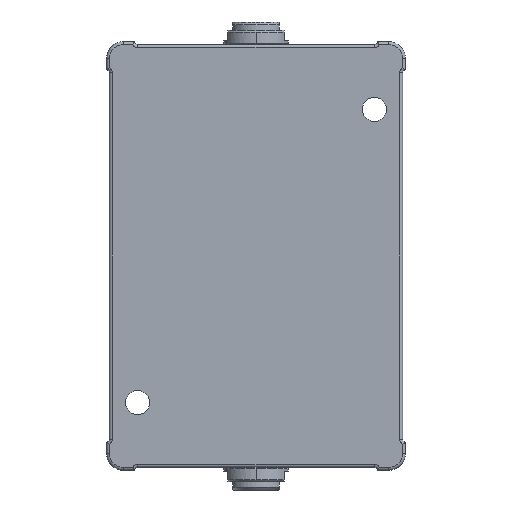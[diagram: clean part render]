
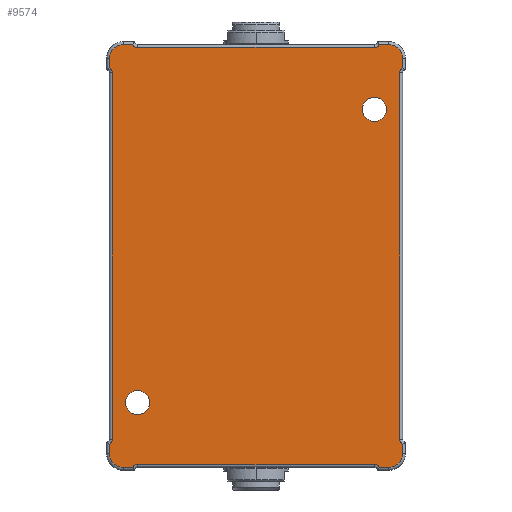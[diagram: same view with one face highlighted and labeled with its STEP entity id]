
A CAD part, front view. The second image highlights one B-rep face of the part: STEP entity #9574.
In plain terms, the highlighted planar face has unit normal (0, -1, 0).
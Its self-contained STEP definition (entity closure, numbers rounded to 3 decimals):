
#896=CARTESIAN_POINT('',(21.,-3.,26.));
#897=DIRECTION('',(0.,1.,0.));
#898=DIRECTION('',(1.,0.,0.));
#899=AXIS2_PLACEMENT_3D('',#896,#897,#898);
#904=CARTESIAN_POINT('',(21.,-3.,26.));
#905=DIRECTION('',(0.,1.,0.));
#906=DIRECTION('',(-1.,0.,0.));
#907=AXIS2_PLACEMENT_3D('',#904,#905,#906);
#912=CARTESIAN_POINT('',(-21.,-3.,-26.));
#913=DIRECTION('',(0.,1.,0.));
#914=DIRECTION('',(1.,0.,0.));
#915=AXIS2_PLACEMENT_3D('',#912,#913,#914);
#920=CARTESIAN_POINT('',(-21.,-3.,-26.));
#921=DIRECTION('',(0.,1.,0.));
#922=DIRECTION('',(-1.,0.,0.));
#923=AXIS2_PLACEMENT_3D('',#920,#921,#922);
#928=CARTESIAN_POINT('',(23.5,-3.,-35.));
#929=DIRECTION('',(0.,1.,0.));
#930=DIRECTION('',(1.,0.,0.));
#931=AXIS2_PLACEMENT_3D('',#928,#929,#930);
#936=DIRECTION('',(1.,0.,0.));
#937=VECTOR('',#936,1.634);
#938=CARTESIAN_POINT('',(21.866,-3.,-37.5));
#939=LINE('',#938,#937);
#943=CARTESIAN_POINT('',(21.,-3.,-38.));
#944=DIRECTION('',(0.,-1.,0.));
#945=DIRECTION('',(0.866,0.,0.5));
#946=AXIS2_PLACEMENT_3D('',#943,#944,#945);
#951=DIRECTION('',(-1.,0.,0.));
#952=VECTOR('',#951,42.);
#953=CARTESIAN_POINT('',(21.,-3.,-37.));
#954=LINE('',#953,#952);
#958=CARTESIAN_POINT('',(-21.,-3.,-38.));
#959=DIRECTION('',(0.,-1.,0.));
#960=DIRECTION('',(0.,0.,1.));
#961=AXIS2_PLACEMENT_3D('',#958,#959,#960);
#966=DIRECTION('',(1.,0.,0.));
#967=VECTOR('',#966,1.634);
#968=CARTESIAN_POINT('',(-23.5,-3.,-37.5));
#969=LINE('',#968,#967);
#973=CARTESIAN_POINT('',(-23.5,-3.,-35.));
#974=DIRECTION('',(0.,1.,0.));
#975=DIRECTION('',(0.,0.,-1.));
#976=AXIS2_PLACEMENT_3D('',#973,#974,#975);
#981=DIRECTION('',(0.,0.,-1.));
#982=VECTOR('',#981,1.634);
#983=CARTESIAN_POINT('',(-26.,-3.,-33.366));
#984=LINE('',#983,#982);
#988=CARTESIAN_POINT('',(-26.5,-3.,-32.5));
#989=DIRECTION('',(0.,-1.,0.));
#990=DIRECTION('',(0.5,0.,-0.866));
#991=AXIS2_PLACEMENT_3D('',#988,#989,#990);
#996=DIRECTION('',(0.,0.,1.));
#997=VECTOR('',#996,65.);
#998=CARTESIAN_POINT('',(-25.5,-3.,-32.5));
#999=LINE('',#998,#997);
#1003=CARTESIAN_POINT('',(-26.5,-3.,32.5));
#1004=DIRECTION('',(0.,-1.,0.));
#1005=DIRECTION('',(1.,0.,0.));
#1006=AXIS2_PLACEMENT_3D('',#1003,#1004,#1005);
#1011=DIRECTION('',(0.,0.,-1.));
#1012=VECTOR('',#1011,1.634);
#1013=CARTESIAN_POINT('',(-26.,-3.,35.));
#1014=LINE('',#1013,#1012);
#1018=CARTESIAN_POINT('',(-23.5,-3.,35.));
#1019=DIRECTION('',(0.,1.,0.));
#1020=DIRECTION('',(-1.,0.,0.));
#1021=AXIS2_PLACEMENT_3D('',#1018,#1019,#1020);
#1026=DIRECTION('',(-1.,0.,0.));
#1027=VECTOR('',#1026,1.634);
#1028=CARTESIAN_POINT('',(-21.866,-3.,37.5));
#1029=LINE('',#1028,#1027);
#1033=CARTESIAN_POINT('',(-21.,-3.,38.));
#1034=DIRECTION('',(0.,-1.,0.));
#1035=DIRECTION('',(-0.866,0.,-0.5));
#1036=AXIS2_PLACEMENT_3D('',#1033,#1034,#1035);
#1041=DIRECTION('',(1.,0.,0.));
#1042=VECTOR('',#1041,42.);
#1043=CARTESIAN_POINT('',(-21.,-3.,37.));
#1044=LINE('',#1043,#1042);
#1048=CARTESIAN_POINT('',(21.,-3.,38.));
#1049=DIRECTION('',(0.,-1.,0.));
#1050=DIRECTION('',(0.,0.,-1.));
#1051=AXIS2_PLACEMENT_3D('',#1048,#1049,#1050);
#1056=DIRECTION('',(-1.,0.,0.));
#1057=VECTOR('',#1056,1.634);
#1058=CARTESIAN_POINT('',(23.5,-3.,37.5));
#1059=LINE('',#1058,#1057);
#1063=CARTESIAN_POINT('',(23.5,-3.,35.));
#1064=DIRECTION('',(0.,1.,0.));
#1065=DIRECTION('',(0.,0.,1.));
#1066=AXIS2_PLACEMENT_3D('',#1063,#1064,#1065);
#1071=DIRECTION('',(0.,0.,1.));
#1072=VECTOR('',#1071,1.634);
#1073=CARTESIAN_POINT('',(26.,-3.,33.366));
#1074=LINE('',#1073,#1072);
#1078=CARTESIAN_POINT('',(26.5,-3.,32.5));
#1079=DIRECTION('',(0.,-1.,0.));
#1080=DIRECTION('',(-0.5,0.,0.866));
#1081=AXIS2_PLACEMENT_3D('',#1078,#1079,#1080);
#1086=DIRECTION('',(0.,0.,-1.));
#1087=VECTOR('',#1086,65.);
#1088=CARTESIAN_POINT('',(25.5,-3.,32.5));
#1089=LINE('',#1088,#1087);
#1093=CARTESIAN_POINT('',(26.5,-3.,-32.5));
#1094=DIRECTION('',(0.,-1.,0.));
#1095=DIRECTION('',(-1.,0.,0.));
#1096=AXIS2_PLACEMENT_3D('',#1093,#1094,#1095);
#1101=DIRECTION('',(0.,0.,1.));
#1102=VECTOR('',#1101,1.634);
#1103=CARTESIAN_POINT('',(26.,-3.,-35.));
#1104=LINE('',#1103,#1102);
#1760=CARTESIAN_POINT('',(-21.866,-3.,-37.5));
#1849=CARTESIAN_POINT('',(-26.,-3.,-33.366));
#2034=CARTESIAN_POINT('',(-21.866,-3.,37.5));
#2262=CARTESIAN_POINT('',(26.,-3.,-33.366));
#8175=VERTEX_POINT('',#1849);
#8177=VERTEX_POINT('',#2034);
#8178=VERTEX_POINT('',#2262);
#8180=VERTEX_POINT('',#1760);
#8195=CARTESIAN_POINT('',(23.5,-3.,-37.5));
#8197=VERTEX_POINT('',#8195);
#8198=CARTESIAN_POINT('',(26.,-3.,-35.));
#8199=VERTEX_POINT('',#8198);
#8202=CARTESIAN_POINT('',(-23.5,-3.,-37.5));
#8203=CARTESIAN_POINT('',(-26.,-3.,-35.));
#8204=VERTEX_POINT('',#8202);
#8205=VERTEX_POINT('',#8203);
#8209=CARTESIAN_POINT('',(26.,-3.,35.));
#8211=VERTEX_POINT('',#8209);
#8212=CARTESIAN_POINT('',(23.5,-3.,37.5));
#8213=VERTEX_POINT('',#8212);
#8217=CARTESIAN_POINT('',(-23.5,-3.,37.5));
#8219=VERTEX_POINT('',#8217);
#8220=CARTESIAN_POINT('',(-26.,-3.,35.));
#8221=VERTEX_POINT('',#8220);
#8222=CARTESIAN_POINT('',(26.,-3.,33.366));
#8223=VERTEX_POINT('',#8222);
#8226=CARTESIAN_POINT('',(21.866,-3.,-37.5));
#8227=VERTEX_POINT('',#8226);
#8236=CARTESIAN_POINT('',(-26.,-3.,33.366));
#8237=VERTEX_POINT('',#8236);
#8240=CARTESIAN_POINT('',(21.866,-3.,37.5));
#8241=VERTEX_POINT('',#8240);
#8244=CARTESIAN_POINT('',(21.,-3.,-37.));
#8245=VERTEX_POINT('',#8244);
#8248=CARTESIAN_POINT('',(-21.,-3.,-37.));
#8249=VERTEX_POINT('',#8248);
#8252=CARTESIAN_POINT('',(25.5,-3.,32.5));
#8253=VERTEX_POINT('',#8252);
#8256=CARTESIAN_POINT('',(25.5,-3.,-32.5));
#8257=VERTEX_POINT('',#8256);
#8260=CARTESIAN_POINT('',(-21.,-3.,37.));
#8261=VERTEX_POINT('',#8260);
#8264=CARTESIAN_POINT('',(21.,-3.,37.));
#8265=VERTEX_POINT('',#8264);
#8268=CARTESIAN_POINT('',(-25.5,-3.,-32.5));
#8269=VERTEX_POINT('',#8268);
#8272=CARTESIAN_POINT('',(-25.5,-3.,32.5));
#8273=VERTEX_POINT('',#8272);
#9141=CARTESIAN_POINT('',(-18.85,-3.,-26.));
#9142=CARTESIAN_POINT('',(-23.15,-3.,-26.));
#9143=VERTEX_POINT('',#9141);
#9144=VERTEX_POINT('',#9142);
#9149=CARTESIAN_POINT('',(23.15,-3.,26.));
#9150=CARTESIAN_POINT('',(18.85,-3.,26.));
#9151=VERTEX_POINT('',#9149);
#9152=VERTEX_POINT('',#9150);
#9508=CARTESIAN_POINT('',(0.,-3.,0.));
#9509=DIRECTION('',(0.,-1.,0.));
#9510=DIRECTION('',(1.,0.,0.));
#9511=AXIS2_PLACEMENT_3D('',#9508,#9509,#9510);
#9512=PLANE('',#9511);
#9514=ORIENTED_EDGE('',*,*,#9513,.T.);
#9516=ORIENTED_EDGE('',*,*,#9515,.F.);
#9518=ORIENTED_EDGE('',*,*,#9517,.T.);
#9520=ORIENTED_EDGE('',*,*,#9519,.T.);
#9522=ORIENTED_EDGE('',*,*,#9521,.T.);
#9524=ORIENTED_EDGE('',*,*,#9523,.F.);
#9526=ORIENTED_EDGE('',*,*,#9525,.T.);
#9528=ORIENTED_EDGE('',*,*,#9527,.F.);
#9530=ORIENTED_EDGE('',*,*,#9529,.T.);
#9532=ORIENTED_EDGE('',*,*,#9531,.T.);
#9534=ORIENTED_EDGE('',*,*,#9533,.T.);
#9536=ORIENTED_EDGE('',*,*,#9535,.F.);
#9538=ORIENTED_EDGE('',*,*,#9537,.T.);
#9540=ORIENTED_EDGE('',*,*,#9539,.F.);
#9542=ORIENTED_EDGE('',*,*,#9541,.T.);
#9544=ORIENTED_EDGE('',*,*,#9543,.T.);
#9546=ORIENTED_EDGE('',*,*,#9545,.T.);
#9548=ORIENTED_EDGE('',*,*,#9547,.F.);
#9550=ORIENTED_EDGE('',*,*,#9549,.T.);
#9552=ORIENTED_EDGE('',*,*,#9551,.F.);
#9554=ORIENTED_EDGE('',*,*,#9553,.T.);
#9556=ORIENTED_EDGE('',*,*,#9555,.T.);
#9558=ORIENTED_EDGE('',*,*,#9557,.T.);
#9560=ORIENTED_EDGE('',*,*,#9559,.F.);
#9561=EDGE_LOOP('',(#9514,#9516,#9518,#9520,#9522,#9524,#9526,#9528,#9530,#9532,
#9534,#9536,#9538,#9540,#9542,#9544,#9546,#9548,#9550,#9552,#9554,#9556,#9558,
#9560));
#9562=FACE_OUTER_BOUND('',#9561,.F.);
#9564=ORIENTED_EDGE('',*,*,#9563,.F.);
#9566=ORIENTED_EDGE('',*,*,#9565,.F.);
#9567=EDGE_LOOP('',(#9564,#9566));
#9568=FACE_BOUND('',#9567,.F.);
#9570=ORIENTED_EDGE('',*,*,#9569,.F.);
#9571=ORIENTED_EDGE('',*,*,#9498,.F.);
#9572=EDGE_LOOP('',(#9570,#9571));
#9573=FACE_BOUND('',#9572,.F.);
#900=CIRCLE('',#899,2.15);
#908=CIRCLE('',#907,2.15);
#916=CIRCLE('',#915,2.15);
#924=CIRCLE('',#923,2.15);
#932=CIRCLE('',#931,2.5);
#947=CIRCLE('',#946,1.);
#962=CIRCLE('',#961,1.);
#977=CIRCLE('',#976,2.5);
#992=CIRCLE('',#991,1.);
#1007=CIRCLE('',#1006,1.);
#1022=CIRCLE('',#1021,2.5);
#1037=CIRCLE('',#1036,1.);
#1052=CIRCLE('',#1051,1.);
#1067=CIRCLE('',#1066,2.5);
#1082=CIRCLE('',#1081,1.);
#1097=CIRCLE('',#1096,1.);
#9498=EDGE_CURVE('',#9152,#9151,#908,.T.);
#9513=EDGE_CURVE('',#8199,#8197,#932,.T.);
#9515=EDGE_CURVE('',#8227,#8197,#939,.T.);
#9517=EDGE_CURVE('',#8227,#8245,#947,.T.);
#9519=EDGE_CURVE('',#8245,#8249,#954,.T.);
#9521=EDGE_CURVE('',#8249,#8180,#962,.T.);
#9523=EDGE_CURVE('',#8204,#8180,#969,.T.);
#9525=EDGE_CURVE('',#8204,#8205,#977,.T.);
#9527=EDGE_CURVE('',#8175,#8205,#984,.T.);
#9529=EDGE_CURVE('',#8175,#8269,#992,.T.);
#9531=EDGE_CURVE('',#8269,#8273,#999,.T.);
#9533=EDGE_CURVE('',#8273,#8237,#1007,.T.);
#9535=EDGE_CURVE('',#8221,#8237,#1014,.T.);
#9537=EDGE_CURVE('',#8221,#8219,#1022,.T.);
#9539=EDGE_CURVE('',#8177,#8219,#1029,.T.);
#9541=EDGE_CURVE('',#8177,#8261,#1037,.T.);
#9543=EDGE_CURVE('',#8261,#8265,#1044,.T.);
#9545=EDGE_CURVE('',#8265,#8241,#1052,.T.);
#9547=EDGE_CURVE('',#8213,#8241,#1059,.T.);
#9549=EDGE_CURVE('',#8213,#8211,#1067,.T.);
#9551=EDGE_CURVE('',#8223,#8211,#1074,.T.);
#9553=EDGE_CURVE('',#8223,#8253,#1082,.T.);
#9555=EDGE_CURVE('',#8253,#8257,#1089,.T.);
#9557=EDGE_CURVE('',#8257,#8178,#1097,.T.);
#9559=EDGE_CURVE('',#8199,#8178,#1104,.T.);
#9563=EDGE_CURVE('',#9143,#9144,#916,.T.);
#9565=EDGE_CURVE('',#9144,#9143,#924,.T.);
#9569=EDGE_CURVE('',#9151,#9152,#900,.T.);
#9574=ADVANCED_FACE('',(#9562,#9568,#9573),#9512,.T.);
